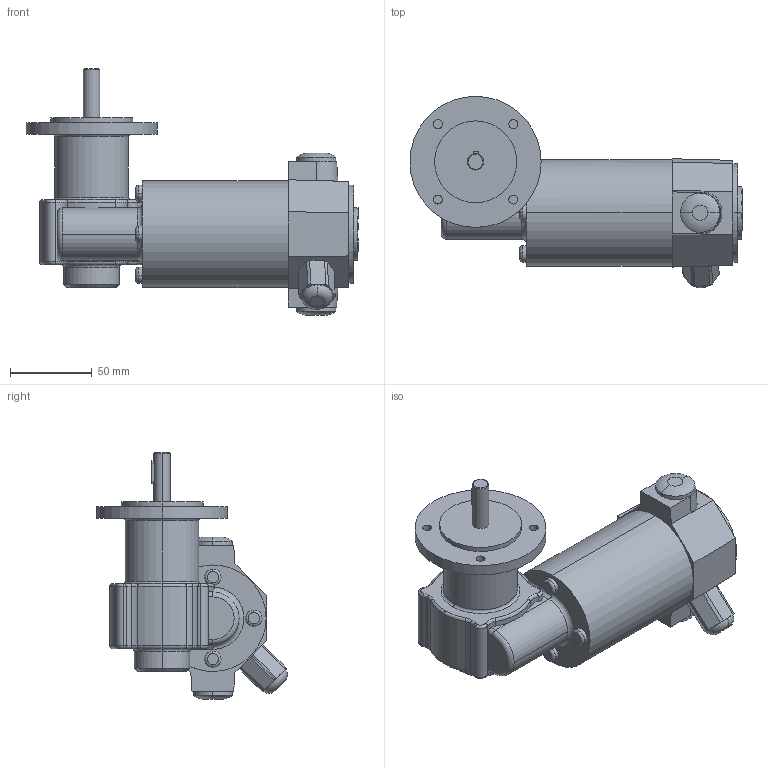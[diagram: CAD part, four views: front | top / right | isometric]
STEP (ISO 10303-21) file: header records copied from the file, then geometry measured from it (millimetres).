
FILE_DESCRIPTION(('OneSpaceDesigner STEP Export'),'2;1');
FILE_NAME('EPG02_GF128-10.stp','2008-07-02T15:01:51',(''),(''),'OneSpace Designer STEP processor (Jan. 2003) for AP214(CD)(Solid Model)','OneSpace Designer 12.01D 09-Jul-2004 (C) CoCreate Software GmbH','');
FILE_SCHEMA(('AUTOMOTIVE_DESIGN_CC2 {1 2 10303 214 -1 1 5 1}'));
Length unit declared in the file: millimetre
Products named in the file (2): EPG02_GF128-10
Assembly tree (1 placements, depth 2):
  EPG02_GF128-10
    EPG02_GF128-10
Bounding box: 202.5 x 116.58 x 150.5 mm (x, y, z)
Volume: 743731.9 mm3; surface area: 70370.8 mm2
Topology: 1 solids, 1 shells, 214 faces, 516 edges, 320 vertices
Faces by surface type: cylinder 85, torus 72, plane 51, cone 4, bspline 2
Entity records: 8032 total; most frequent: CARTESIAN_POINT 3496, ORIENTED_EDGE 1032, DIRECTION 859, EDGE_CURVE 516, AXIS2_PLACEMENT_3D 352, VERTEX_POINT 320, EDGE_LOOP 238, FACE_OUTER_BOUND 214
